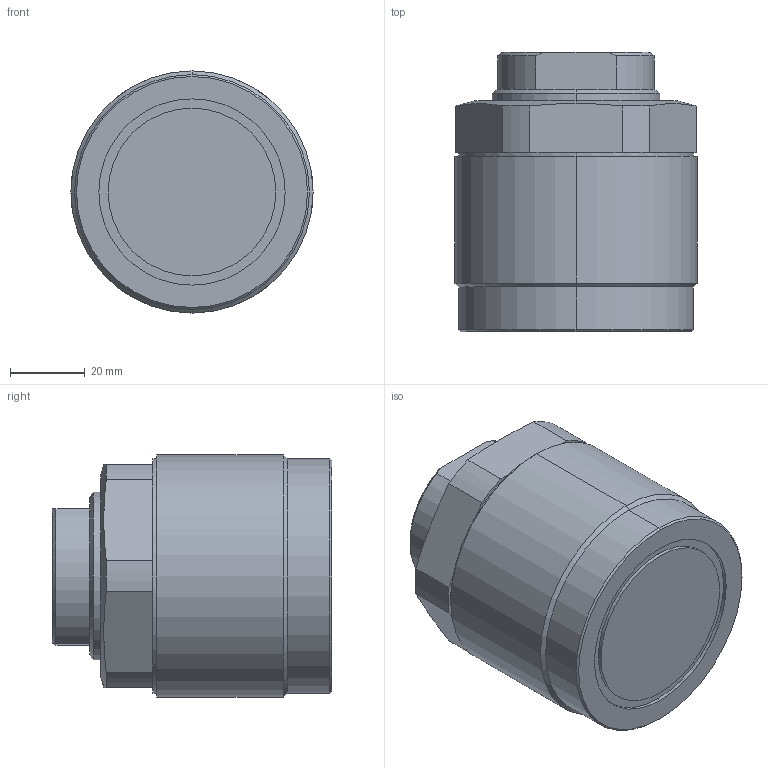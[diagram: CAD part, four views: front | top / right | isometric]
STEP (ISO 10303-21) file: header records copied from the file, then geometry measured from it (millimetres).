
FILE_DESCRIPTION (( 'STEP AP203' ), '1' );
FILE_NAME ('T03C-M657-S threaded pusher.STEP', '2022-07-09T17:47:29', ( '' ), ( '' ), 'SwSTEP 2.0', 'SolidWorks 2017', '' );
FILE_SCHEMA (( 'CONFIG_CONTROL_DESIGN' ));
Length unit declared in the file: millimetre
Products named in the file (3): T03C-M657-S part-1; T03C-M657-S part-2; T03C-M657-S threaded pusher
Assembly tree (2 placements, depth 2):
  T03C-M657-S threaded pusher
    T03C-M657-S part-1
    T03C-M657-S part-2
Bounding box: 65 x 75 x 65 mm (x, y, z)
Volume: 262842 mm3; surface area: 29193.9 mm2
Topology: 2 solids, 2 shells, 259 faces, 685 edges, 451 vertices
Faces by surface type: plane 129, bspline 94, cylinder 22, cone 14
Entity records: 12939 total; most frequent: CARTESIAN_POINT 6945, ORIENTED_EDGE 1366, DIRECTION 834, EDGE_CURVE 683, VERTEX_POINT 451, LINE 362, VECTOR 362, EDGE_LOOP 282
